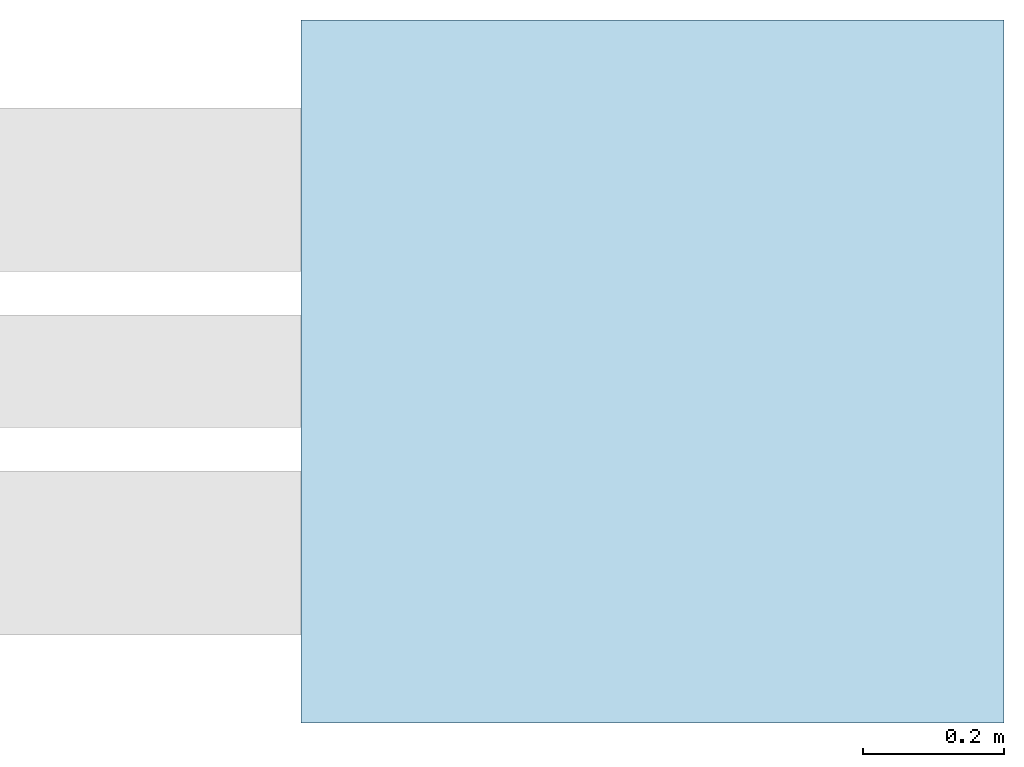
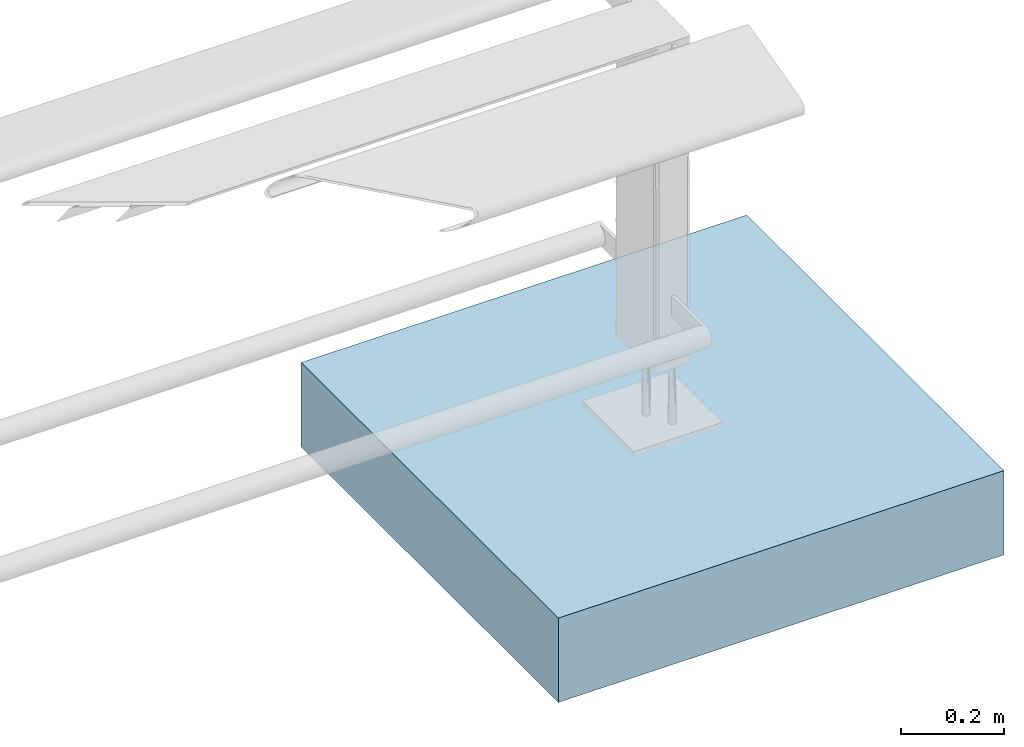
# One storey, incomplete: 1 slab.
"""IFC4 building model written with IfcOpenShell, lengths in metres."""

import ifcopenshell
import ifcopenshell.guid

model = None  # the IFC model being written
_history = None  # IfcOwnerHistory: only IFC2X3 demands one
_inside = {}  # id of a spatial element -> (the spatial element, [elements in it])
_under = {}  # id of a project, library or spatial element -> (it, [spatial elements below it])
_declared = {}  # id of a project -> (the project, [libraries it declares])
_typed = {}  # id of a type object -> (the type object, [elements of that type])
_made_of = {}  # id of a material, layer set ... -> (it, [elements and type objects made of it])


def new_model(schema):
    """Start an empty IFC model of exactly this schema.

    Asked for "IFC4X3", IfcOpenShell would pick the latest addendum, in which some entities
    have other attributes; the version numbers below select the first issue.
    IFC2X3 requires an IfcOwnerHistory on every rooted entity: one is made here for all.
    """
    global model, _history
    if schema == "IFC4X3":
        model = ifcopenshell.file(schema_version=(4, 3, 0, 0))
    else:
        model = ifcopenshell.file(schema=schema)
    _inside.clear()
    _under.clear()
    _declared.clear()
    _typed.clear()
    _made_of.clear()
    _history = None
    if model.schema == "IFC2X3":
        org = make("IfcOrganization", Name="unknown")
        user = make(
            "IfcPersonAndOrganization",
            ThePerson=make("IfcPerson", FamilyName="unknown"),
            TheOrganization=org,
        )
        app = make(
            "IfcApplication",
            ApplicationDeveloper=org,
            Version="unknown",
            ApplicationFullName="unknown",
            ApplicationIdentifier="unknown",
        )
        _history = make(
            "IfcOwnerHistory",
            OwningUser=user,
            OwningApplication=app,
            ChangeAction="ADDED",
            CreationDate=0,
        )
    return model


def make(cls, **values):
    """One entity of the class cls with the attributes given. An attribute that is None is left unset."""
    return model.create_entity(
        cls, **{name: value for name, value in values.items() if value is not None}
    )


def entity(cls, *values):
    """Any entity or typed value of the class cls, its attributes in the order of the schema. None: left unset."""
    e = model.create_entity(cls)
    for i, value in enumerate(values):
        if value is not None:
            e[i] = value
    return e


def rooted(cls, **values):
    """An entity with a GlobalId (a new one), such as an element, a storey or a relation."""
    return make(cls, GlobalId=ifcopenshell.guid.new(), OwnerHistory=_history, **values)


def si_unit(unit_type, name, prefix=None):
    """IfcSIUnit, for example si_unit("LENGTHUNIT", "METRE", prefix="MILLI")."""
    return make("IfcSIUnit", UnitType=unit_type, Prefix=prefix, Name=name)


def converted_unit(unit_type, name, factor, base, dimensions=None, offset=None):
    """IfcConversionBasedUnit, such as the inch: factor (a typed value) times the base unit."""
    return make(
        "IfcConversionBasedUnit"
        if offset is None
        else "IfcConversionBasedUnitWithOffset",
        ConversionOffset=offset,
        Dimensions=None
        if dimensions is None
        else entity("IfcDimensionalExponents", *dimensions),
        UnitType=unit_type,
        Name=name,
        ConversionFactor=make(
            "IfcMeasureWithUnit", ValueComponent=factor, UnitComponent=base
        ),
    )


def assignment(units):
    """IfcUnitAssignment: the units of a project."""
    return None if units is None else make("IfcUnitAssignment", Units=units)


def point(xyz):
    """IfcCartesianPoint."""
    return None if xyz is None else make("IfcCartesianPoint", Coordinates=xyz)


def direction(xyz):
    """IfcDirection."""
    return None if xyz is None else make("IfcDirection", DirectionRatios=xyz)


def frame(location, z_axis=None, x_axis=None):
    """IfcAxis2Placement3D, a coordinate frame: its origin and axes. An axis left out is left unset."""
    return make(
        "IfcAxis2Placement3D",
        Location=point(location),
        Axis=direction(z_axis),
        RefDirection=direction(x_axis),
    )


def frame_2d(location, x_axis=None):
    """IfcAxis2Placement2D, a coordinate frame in the plane: its origin and x axis."""
    return make(
        "IfcAxis2Placement2D", Location=point(location), RefDirection=direction(x_axis)
    )


def origin():
    """The frame at (0, 0, 0) with its axes left unset."""
    return frame((0.0, 0.0, 0.0))


def place(relative_to, where):
    """IfcLocalPlacement: puts the frame where relative to a parent placement (None: the world)."""
    return make(
        "IfcLocalPlacement", PlacementRelTo=relative_to, RelativePlacement=where
    )


def context(
    kind, dimensions, precision=None, world=None, true_north=None, identifier=None
):
    """IfcGeometricRepresentationContext, for example the 3D "Model" context."""
    return make(
        "IfcGeometricRepresentationContext",
        ContextIdentifier=identifier,
        ContextType=kind,
        CoordinateSpaceDimension=dimensions,
        Precision=precision,
        WorldCoordinateSystem=world,
        TrueNorth=true_north,
    )


def subcontext(parent, identifier, kind, view, scale=None):
    """IfcGeometricRepresentationSubContext, for example "Body" below "Model"."""
    return make(
        "IfcGeometricRepresentationSubContext",
        ContextIdentifier=identifier,
        ContextType=kind,
        ParentContext=parent,
        TargetScale=scale,
        TargetView=view,
    )


def project(units=None, contexts=None):
    """IfcProject with its units and contexts."""
    return rooted(
        "IfcProject",
        Name="project",
        RepresentationContexts=contexts,
        UnitsInContext=assignment(units),
    )


def spatial(cls, under=None, at=None, **own):
    """A site, building, storey or space (cls), placed at a placement, below another one or the project."""
    s = rooted(cls, ObjectPlacement=at, **own)
    if under is not None:
        _under.setdefault(under.id(), (under, []))[1].append(s)
    return s


def profile(cls, at=None, kind="AREA", **sizes):
    """A parametric profile (cls). Its sizes go by their IFC names, for example OverallWidth=200.0."""
    return make(cls, ProfileType=kind, Position=at, **sizes)


def rectangle(**sizes):
    """IfcRectangleProfileDef."""
    return profile("IfcRectangleProfileDef", **sizes)


def extrude(swept, where, along, depth):
    """IfcExtrudedAreaSolid: the profile swept, set in the frame where, extruded along a direction by depth."""
    return make(
        "IfcExtrudedAreaSolid",
        SweptArea=swept,
        Position=where,
        ExtrudedDirection=direction(along),
        Depth=depth,
    )


def shape(context_of_items, identifier, shape_type, items):
    """IfcShapeRepresentation: the items that make up one representation, for example the "Body"."""
    return make(
        "IfcShapeRepresentation",
        ContextOfItems=context_of_items,
        RepresentationIdentifier=identifier,
        RepresentationType=shape_type,
        Items=items,
    )


def material(Name=None, Category=None):
    """IfcMaterial."""
    return make("IfcMaterial", Name=Name, Category=Category)


def made_of(thing, what):
    """Note that an element or type object is made of a material, layer set ...; save() writes the relation."""
    if what is not None:
        _made_of.setdefault(what.id(), (what, []))[1].append(thing)
    return thing


def type_object(cls, material=None, **own):
    """A type object (cls), such as IfcWallType, which elements share."""
    return made_of(rooted(cls, **own), material)


def element(
    cls,
    number,
    at=None,
    inside=None,
    cuts=None,
    type_object=None,
    material=None,
    context=None,
    identifier="Body",
    shape_type=None,
    held_by="IfcProductDefinitionShape",
    body=None,
    shapes=None,
    **own,
):
    """One element of the class cls, such as IfcWall. Its Tag is "e" and its number.

    at: its placement. inside: the storey or other place that contains it. cuts: it is an
    opening in that element (IfcRelVoidsElement). A single representation is given by context,
    identifier, shape_type and body (its items); several are given by shapes. held_by: the class
    of the entity that holds the representations. save() writes the other relations.
    """
    e = rooted(cls, Tag="e%d" % number, ObjectPlacement=at, **own)
    if body is not None:
        shapes = [shape(context, identifier, shape_type, body)]
    if shapes is not None:
        e.Representation = make(held_by, Representations=shapes)
    if inside is not None:
        _inside.setdefault(inside.id(), (inside, []))[1].append(e)
    if cuts is not None:
        rooted(
            "IfcRelVoidsElement", RelatingBuildingElement=cuts, RelatedOpeningElement=e
        )
    if type_object is not None:
        _typed.setdefault(type_object.id(), (type_object, []))[1].append(e)
    return made_of(e, material)


def aggregate(whole, parts):
    """IfcRelAggregates: a whole, such as a stair, and the parts it consists of."""
    return rooted("IfcRelAggregates", RelatingObject=whole, RelatedObjects=parts)


def save(model, path):
    """Write the relations noted so far, then the file.

    IfcRelAggregates (storeys below a building ...), IfcRelContainedInSpatialStructure (elements
    in a storey), IfcRelDefinesByType, IfcRelAssociatesMaterial and IfcRelDeclares: one each for
    every whole, place, type object, material and project.
    """
    for whole, parts in _under.values():
        aggregate(whole, parts)
    for where, things in _inside.values():
        rooted(
            "IfcRelContainedInSpatialStructure",
            RelatedElements=things,
            RelatingStructure=where,
        )
    for kind, things in _typed.values():
        rooted("IfcRelDefinesByType", RelatedObjects=things, RelatingType=kind)
    for what, things in _made_of.values():
        rooted("IfcRelAssociatesMaterial", RelatedObjects=things, RelatingMaterial=what)
    for by, libraries in _declared.values():
        rooted("IfcRelDeclares", RelatingContext=by, RelatedDefinitions=libraries)
    model.write(path)


model = new_model("IFC4")

# Units and contexts
model_context = context("Model", 3, precision=1e-05, world=origin(), true_north=direction((6.123031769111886e-17, 1.0)))
body_context = subcontext(model_context, "Body", "Model", "MODEL_VIEW")
ifc_project = project(units=[si_unit("LENGTHUNIT", "METRE"), converted_unit("PLANEANGLEUNIT", "DEGREE", entity("IfcPlaneAngleMeasure", 0.017453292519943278), si_unit("PLANEANGLEUNIT", "RADIAN"), dimensions=[0, 0, 0, 0, 0, 0, 0]), si_unit("AREAUNIT", "SQUARE_METRE")], contexts=[model_context])

# Site, building, storey
site_placement = place(None, origin())
site = spatial("IfcSite", under=ifc_project, at=site_placement, Name="Default", CompositionType="ELEMENT")
building_placement = place(site_placement, origin())
building = spatial("IfcBuilding", under=site, at=building_placement, CompositionType="ELEMENT")
storey_placement = place(building_placement, origin())
storey = spatial("IfcBuildingStorey", under=building, at=storey_placement, Name="Ebene 0", CompositionType="ELEMENT", Elevation=0.0)

# Slab
ifc_material = material(Name="DB_Fertigbeton", Category="DB_Beton")
slab_type = type_object("IfcSlabType", Name="DB_Calidum_light_Fundament:DB_Calidum_light_Fundament", PredefinedType="BASESLAB", material=ifc_material)
slab_placement = place(storey_placement, origin())
element("IfcSlab", 1, at=slab_placement, inside=storey, type_object=slab_type, Name="DB_Calidum_light_Fundament:DB_Calidum_light_Fundament", ObjectType="DB_Calidum_light_Fundament:DB_Calidum_light_Fundament", PredefinedType="BASESLAB", context=body_context, shape_type="SweptSolid", body=[
    extrude(rectangle(XDim=0.9999999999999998, YDim=0.9999999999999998, at=frame_2d((0.0, 1.1102230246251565e-16), x_axis=(1.0, 0.0))), frame((1.7500000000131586, 0.0, -0.3619999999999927), z_axis=(0.0, 0.0, 1.0), x_axis=(0.0, 1.0, 0.0)), (0.0, 0.0, 1.0), 0.2),
])

save(model, "model.ifc")
